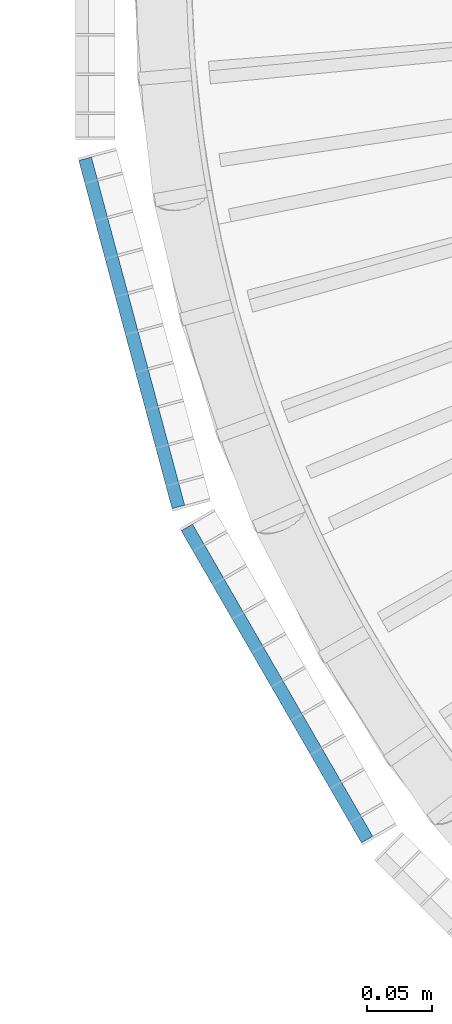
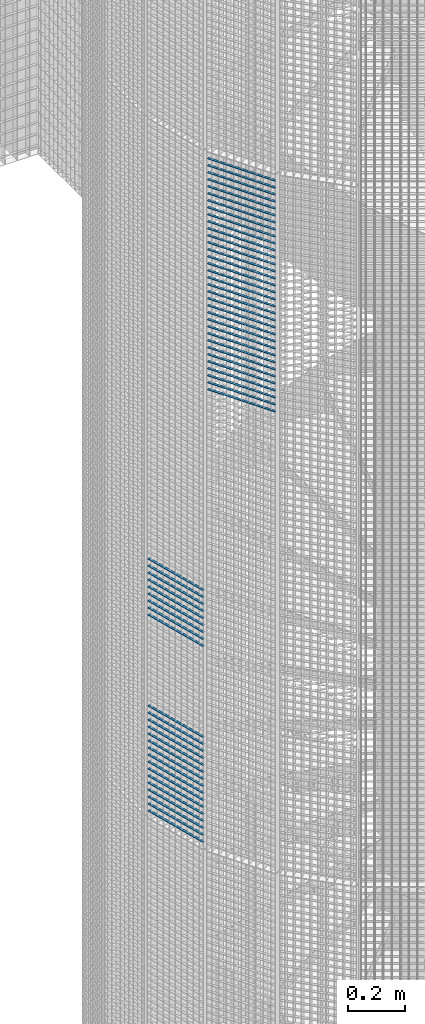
# One storey, part 358 of 1148: 59 beams, 2 elements without a shape of their own.
"""IFC2X3 building model written with IfcOpenShell, lengths in millimetres."""

from ifc_helpers import new_model, si_unit, frame, origin_with_axes, origin_2d_with_axis, place, context, subcontext, project, spatial, rectangle, extrude, material, type_object, element, aggregate, save


model = new_model("IFC2X3")

# Units and contexts
model_context = context("Model", 3, precision=1e-05, world=origin_with_axes())
body_context = subcontext(model_context, "Body", "Model", "MODEL_VIEW")
ifc_project = project(units=[si_unit("LENGTHUNIT", "METRE", prefix="MILLI"), si_unit("AREAUNIT", "SQUARE_METRE"), si_unit("VOLUMEUNIT", "CUBIC_METRE"), si_unit("MASSUNIT", "GRAM", prefix="KILO"), si_unit("TIMEUNIT", "SECOND"), si_unit("PLANEANGLEUNIT", "RADIAN"), si_unit("SOLIDANGLEUNIT", "STERADIAN"), si_unit("THERMODYNAMICTEMPERATUREUNIT", "DEGREE_CELSIUS"), si_unit("LUMINOUSINTENSITYUNIT", "LUMEN")], contexts=[model_context])

# Site, building, storey
site_placement = place(None, origin_with_axes())
site = spatial("IfcSite", under=ifc_project, at=site_placement, Name="Undefined", CompositionType="ELEMENT")
building_placement = place(site_placement, origin_with_axes())
building = spatial("IfcBuilding", under=site, at=building_placement, Name="Undefined", CompositionType="ELEMENT")
storey_placement = place(building_placement, origin_with_axes())
storey = spatial("IfcBuildingStorey", under=building, at=storey_placement, Name="Undefined", CompositionType="ELEMENT", Elevation=0.0)

# Assembly, beams
assembly_1_placement = place(storey_placement, origin_with_axes())
assembly_1 = element("IfcElementAssembly", 1, at=assembly_1_placement, inside=storey, Name="BORDURE", AssemblyPlace="NOTDEFINED", PredefinedType="NOTDEFINED")
ifc_material = material(Name="STEEL/S235JR")
beam_type = type_object("IfcBeamType", Name="PL2*10", PredefinedType="NOTDEFINED")
beam_1_placement = place(assembly_1_placement, frame((20560.1769047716, -421.483733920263, 3480.0), z_axis=(-0.965925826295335, -0.258819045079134, 0.0), x_axis=(-0.258819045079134, 0.965925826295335, 0.0)))
beam_1 = element("IfcBeam", 2, at=beam_1_placement, type_object=beam_type, material=ifc_material, Name="ENTRETOISE", context=body_context, shape_type="SweptSolid", body=[
    extrude(rectangle(XDim=2.0, YDim=10.0, at=origin_2d_with_axis()), frame((275.999999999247, 9.09494701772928e-13, 1.53210777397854e-14), z_axis=(-1.0, 0.0, 0.0), x_axis=(0.0, -1.0, 0.0)), (0.0, 0.0, 1.0), 276.0),
])
beam_2_placement = place(assembly_1_placement, frame((20560.1769047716, -421.483733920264, 3870.0), z_axis=(-0.965925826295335, -0.258819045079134, 0.0), x_axis=(-0.258819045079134, 0.965925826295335, 0.0)))
beam_2 = element("IfcBeam", 3, at=beam_2_placement, type_object=beam_type, material=ifc_material, Name="ENTRETOISE", context=body_context, shape_type="SweptSolid", body=[
    extrude(rectangle(XDim=2.0, YDim=10.0, at=origin_2d_with_axis()), frame((275.999999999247, 9.09494701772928e-13, 1.53210777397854e-14), z_axis=(-1.0, 0.0, 0.0), x_axis=(0.0, -1.0, 0.0)), (0.0, 0.0, 1.0), 276.0),
])
beam_3_placement = place(assembly_1_placement, frame((20560.1769047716, -421.483733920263, 3450.0), z_axis=(-0.965925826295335, -0.258819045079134, 0.0), x_axis=(-0.258819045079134, 0.965925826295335, 0.0)))
beam_3 = element("IfcBeam", 4, at=beam_3_placement, type_object=beam_type, material=ifc_material, Name="ENTRETOISE", context=body_context, shape_type="SweptSolid", body=[
    extrude(rectangle(XDim=2.0, YDim=10.0, at=origin_2d_with_axis()), frame((275.999999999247, 9.09494701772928e-13, 1.53210777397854e-14), z_axis=(-1.0, 0.0, 0.0), x_axis=(0.0, -1.0, 0.0)), (0.0, 0.0, 1.0), 276.0),
])
beam_4_placement = place(assembly_1_placement, frame((20560.1769047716, -421.483733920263, 3420.0), z_axis=(-0.965925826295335, -0.258819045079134, 0.0), x_axis=(-0.258819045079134, 0.965925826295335, 0.0)))
beam_4 = element("IfcBeam", 5, at=beam_4_placement, type_object=beam_type, material=ifc_material, Name="ENTRETOISE", context=body_context, shape_type="SweptSolid", body=[
    extrude(rectangle(XDim=2.0, YDim=10.0, at=origin_2d_with_axis()), frame((275.999999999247, 9.09494701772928e-13, 1.53210777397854e-14), z_axis=(-1.0, 0.0, 0.0), x_axis=(0.0, -1.0, 0.0)), (0.0, 0.0, 1.0), 276.0),
])
beam_5_placement = place(assembly_1_placement, frame((20560.1769047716, -421.483733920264, 3900.0), z_axis=(-0.965925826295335, -0.258819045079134, 0.0), x_axis=(-0.258819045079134, 0.965925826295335, 0.0)))
beam_5 = element("IfcBeam", 6, at=beam_5_placement, type_object=beam_type, material=ifc_material, Name="ENTRETOISE", context=body_context, shape_type="SweptSolid", body=[
    extrude(rectangle(XDim=2.0, YDim=10.0, at=origin_2d_with_axis()), frame((275.999999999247, 9.09494701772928e-13, 1.53210777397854e-14), z_axis=(-1.0, 0.0, 0.0), x_axis=(0.0, -1.0, 0.0)), (0.0, 0.0, 1.0), 276.0),
])
beam_6_placement = place(assembly_1_placement, frame((20560.1769047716, -421.483733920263, 3390.0), z_axis=(-0.965925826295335, -0.258819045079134, 0.0), x_axis=(-0.258819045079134, 0.965925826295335, 0.0)))
beam_6 = element("IfcBeam", 7, at=beam_6_placement, type_object=beam_type, material=ifc_material, Name="ENTRETOISE", context=body_context, shape_type="SweptSolid", body=[
    extrude(rectangle(XDim=2.0, YDim=10.0, at=origin_2d_with_axis()), frame((275.999999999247, 9.09494701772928e-13, 1.53210777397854e-14), z_axis=(-1.0, 0.0, 0.0), x_axis=(0.0, -1.0, 0.0)), (0.0, 0.0, 1.0), 276.0),
])
beam_7_placement = place(assembly_1_placement, frame((20560.1769047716, -421.483733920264, 3930.0), z_axis=(-0.965925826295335, -0.258819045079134, 0.0), x_axis=(-0.258819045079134, 0.965925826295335, 0.0)))
beam_7 = element("IfcBeam", 8, at=beam_7_placement, type_object=beam_type, material=ifc_material, Name="ENTRETOISE", context=body_context, shape_type="SweptSolid", body=[
    extrude(rectangle(XDim=2.0, YDim=10.0, at=origin_2d_with_axis()), frame((275.999999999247, 9.09494701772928e-13, 1.53210777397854e-14), z_axis=(-1.0, 0.0, 0.0), x_axis=(0.0, -1.0, 0.0)), (0.0, 0.0, 1.0), 276.0),
])
beam_8_placement = place(assembly_1_placement, frame((20560.1769047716, -421.483733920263, 3360.0), z_axis=(-0.965925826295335, -0.258819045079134, 0.0), x_axis=(-0.258819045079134, 0.965925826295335, 0.0)))
beam_8 = element("IfcBeam", 9, at=beam_8_placement, type_object=beam_type, material=ifc_material, Name="ENTRETOISE", context=body_context, shape_type="SweptSolid", body=[
    extrude(rectangle(XDim=2.0, YDim=10.0, at=origin_2d_with_axis()), frame((275.999999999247, 9.09494701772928e-13, 1.53210777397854e-14), z_axis=(-1.0, 0.0, 0.0), x_axis=(0.0, -1.0, 0.0)), (0.0, 0.0, 1.0), 276.0),
])
beam_9_placement = place(assembly_1_placement, frame((20560.1769047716, -421.483733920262, 3330.0), z_axis=(-0.965925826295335, -0.258819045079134, 0.0), x_axis=(-0.258819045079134, 0.965925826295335, 0.0)))
beam_9 = element("IfcBeam", 10, at=beam_9_placement, type_object=beam_type, material=ifc_material, Name="ENTRETOISE", context=body_context, shape_type="SweptSolid", body=[
    extrude(rectangle(XDim=2.0, YDim=10.0, at=origin_2d_with_axis()), frame((275.999999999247, 9.09494701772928e-13, 1.53210777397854e-14), z_axis=(-1.0, 0.0, 0.0), x_axis=(0.0, -1.0, 0.0)), (0.0, 0.0, 1.0), 276.0),
])
beam_10_placement = place(assembly_1_placement, frame((20560.1769047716, -421.483733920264, 3960.0), z_axis=(-0.965925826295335, -0.258819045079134, 0.0), x_axis=(-0.258819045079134, 0.965925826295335, 0.0)))
beam_10 = element("IfcBeam", 11, at=beam_10_placement, type_object=beam_type, material=ifc_material, Name="ENTRETOISE", context=body_context, shape_type="SweptSolid", body=[
    extrude(rectangle(XDim=2.0, YDim=10.0, at=origin_2d_with_axis()), frame((275.999999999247, 9.09494701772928e-13, 1.53210777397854e-14), z_axis=(-1.0, 0.0, 0.0), x_axis=(0.0, -1.0, 0.0)), (0.0, 0.0, 1.0), 276.0),
])
beam_11_placement = place(assembly_1_placement, frame((20560.1769047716, -421.483733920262, 3300.0), z_axis=(-0.965925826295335, -0.258819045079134, 0.0), x_axis=(-0.258819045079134, 0.965925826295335, 0.0)))
beam_11 = element("IfcBeam", 12, at=beam_11_placement, type_object=beam_type, material=ifc_material, Name="ENTRETOISE", context=body_context, shape_type="SweptSolid", body=[
    extrude(rectangle(XDim=2.0, YDim=10.0, at=origin_2d_with_axis()), frame((275.999999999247, 9.09494701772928e-13, 1.53210777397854e-14), z_axis=(-1.0, 0.0, 0.0), x_axis=(0.0, -1.0, 0.0)), (0.0, 0.0, 1.0), 276.0),
])
beam_12_placement = place(assembly_1_placement, frame((20560.1769047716, -421.483733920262, 3270.0), z_axis=(-0.965925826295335, -0.258819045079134, 0.0), x_axis=(-0.258819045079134, 0.965925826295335, 0.0)))
beam_12 = element("IfcBeam", 13, at=beam_12_placement, type_object=beam_type, material=ifc_material, Name="ENTRETOISE", context=body_context, shape_type="SweptSolid", body=[
    extrude(rectangle(XDim=2.0, YDim=10.0, at=origin_2d_with_axis()), frame((275.999999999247, 9.09494701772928e-13, 1.53210777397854e-14), z_axis=(-1.0, 0.0, 0.0), x_axis=(0.0, -1.0, 0.0)), (0.0, 0.0, 1.0), 276.0),
])
beam_13_placement = place(assembly_1_placement, frame((20560.1769047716, -421.483733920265, 3990.0), z_axis=(-0.965925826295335, -0.258819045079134, 0.0), x_axis=(-0.258819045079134, 0.965925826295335, 0.0)))
beam_13 = element("IfcBeam", 14, at=beam_13_placement, type_object=beam_type, material=ifc_material, Name="ENTRETOISE", context=body_context, shape_type="SweptSolid", body=[
    extrude(rectangle(XDim=2.0, YDim=10.0, at=origin_2d_with_axis()), frame((275.999999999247, 9.09494701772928e-13, 1.53210777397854e-14), z_axis=(-1.0, 0.0, 0.0), x_axis=(0.0, -1.0, 0.0)), (0.0, 0.0, 1.0), 276.0),
])
beam_14_placement = place(assembly_1_placement, frame((20560.1769047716, -421.483733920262, 3240.0), z_axis=(-0.965925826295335, -0.258819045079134, 0.0), x_axis=(-0.258819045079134, 0.965925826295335, 0.0)))
beam_14 = element("IfcBeam", 15, at=beam_14_placement, type_object=beam_type, material=ifc_material, Name="ENTRETOISE", context=body_context, shape_type="SweptSolid", body=[
    extrude(rectangle(XDim=2.0, YDim=10.0, at=origin_2d_with_axis()), frame((275.999999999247, 9.09494701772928e-13, 1.53210777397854e-14), z_axis=(-1.0, 0.0, 0.0), x_axis=(0.0, -1.0, 0.0)), (0.0, 0.0, 1.0), 276.0),
])
beam_15_placement = place(assembly_1_placement, frame((20560.1769047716, -421.483733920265, 4020.0), z_axis=(-0.965925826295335, -0.258819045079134, 0.0), x_axis=(-0.258819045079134, 0.965925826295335, 0.0)))
beam_15 = element("IfcBeam", 16, at=beam_15_placement, type_object=beam_type, material=ifc_material, Name="ENTRETOISE", context=body_context, shape_type="SweptSolid", body=[
    extrude(rectangle(XDim=2.0, YDim=10.0, at=origin_2d_with_axis()), frame((275.999999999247, 9.09494701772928e-13, 1.53210777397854e-14), z_axis=(-1.0, 0.0, 0.0), x_axis=(0.0, -1.0, 0.0)), (0.0, 0.0, 1.0), 276.0),
])
beam_16_placement = place(assembly_1_placement, frame((20560.1769047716, -421.483733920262, 3210.0), z_axis=(-0.965925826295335, -0.258819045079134, 0.0), x_axis=(-0.258819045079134, 0.965925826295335, 0.0)))
beam_16 = element("IfcBeam", 17, at=beam_16_placement, type_object=beam_type, material=ifc_material, Name="ENTRETOISE", context=body_context, shape_type="SweptSolid", body=[
    extrude(rectangle(XDim=2.0, YDim=10.0, at=origin_2d_with_axis()), frame((275.999999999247, 9.09494701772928e-13, 1.53210777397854e-14), z_axis=(-1.0, 0.0, 0.0), x_axis=(0.0, -1.0, 0.0)), (0.0, 0.0, 1.0), 276.0),
])
beam_17_placement = place(assembly_1_placement, frame((20560.1769047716, -421.483733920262, 3180.0), z_axis=(-0.965925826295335, -0.258819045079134, 0.0), x_axis=(-0.258819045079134, 0.965925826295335, 0.0)))
beam_17 = element("IfcBeam", 18, at=beam_17_placement, type_object=beam_type, material=ifc_material, Name="ENTRETOISE", context=body_context, shape_type="SweptSolid", body=[
    extrude(rectangle(XDim=2.0, YDim=10.0, at=origin_2d_with_axis()), frame((275.999999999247, 9.09494701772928e-13, 1.53210777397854e-14), z_axis=(-1.0, 0.0, 0.0), x_axis=(0.0, -1.0, 0.0)), (0.0, 0.0, 1.0), 276.0),
])
beam_18_placement = place(assembly_1_placement, frame((20560.1769047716, -421.483733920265, 4050.0), z_axis=(-0.965925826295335, -0.258819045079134, 0.0), x_axis=(-0.258819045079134, 0.965925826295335, 0.0)))
beam_18 = element("IfcBeam", 19, at=beam_18_placement, type_object=beam_type, material=ifc_material, Name="ENTRETOISE", context=body_context, shape_type="SweptSolid", body=[
    extrude(rectangle(XDim=2.0, YDim=10.0, at=origin_2d_with_axis()), frame((275.999999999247, 9.09494701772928e-13, 1.53210777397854e-14), z_axis=(-1.0, 0.0, 0.0), x_axis=(0.0, -1.0, 0.0)), (0.0, 0.0, 1.0), 276.0),
])
beam_19_placement = place(assembly_1_placement, frame((20560.1769047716, -421.483733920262, 3150.0), z_axis=(-0.965925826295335, -0.258819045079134, 0.0), x_axis=(-0.258819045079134, 0.965925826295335, 0.0)))
beam_19 = element("IfcBeam", 20, at=beam_19_placement, type_object=beam_type, material=ifc_material, Name="ENTRETOISE", context=body_context, shape_type="SweptSolid", body=[
    extrude(rectangle(XDim=2.0, YDim=10.0, at=origin_2d_with_axis()), frame((275.999999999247, 9.09494701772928e-13, 1.53210777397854e-14), z_axis=(-1.0, 0.0, 0.0), x_axis=(0.0, -1.0, 0.0)), (0.0, 0.0, 1.0), 276.0),
])
beam_20_placement = place(assembly_1_placement, frame((20560.1769047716, -421.483733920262, 3120.0), z_axis=(-0.965925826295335, -0.258819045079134, 0.0), x_axis=(-0.258819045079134, 0.965925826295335, 0.0)))
beam_20 = element("IfcBeam", 21, at=beam_20_placement, type_object=beam_type, material=ifc_material, Name="ENTRETOISE", context=body_context, shape_type="SweptSolid", body=[
    extrude(rectangle(XDim=2.0, YDim=10.0, at=origin_2d_with_axis()), frame((275.999999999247, 9.09494701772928e-13, 1.53210777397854e-14), z_axis=(-1.0, 0.0, 0.0), x_axis=(0.0, -1.0, 0.0)), (0.0, 0.0, 1.0), 276.0),
])
beam_21_placement = place(assembly_1_placement, frame((20560.1769047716, -421.483733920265, 4080.0), z_axis=(-0.965925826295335, -0.258819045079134, 0.0), x_axis=(-0.258819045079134, 0.965925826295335, 0.0)))
beam_21 = element("IfcBeam", 22, at=beam_21_placement, type_object=beam_type, material=ifc_material, Name="ENTRETOISE", context=body_context, shape_type="SweptSolid", body=[
    extrude(rectangle(XDim=2.0, YDim=10.0, at=origin_2d_with_axis()), frame((275.999999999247, 9.09494701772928e-13, 1.53210777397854e-14), z_axis=(-1.0, 0.0, 0.0), x_axis=(0.0, -1.0, 0.0)), (0.0, 0.0, 1.0), 276.0),
])
beam_22_placement = place(assembly_1_placement, frame((20560.1769047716, -421.483733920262, 3090.0), z_axis=(-0.965925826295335, -0.258819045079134, 0.0), x_axis=(-0.258819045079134, 0.965925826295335, 0.0)))
beam_22 = element("IfcBeam", 23, at=beam_22_placement, type_object=beam_type, material=ifc_material, Name="ENTRETOISE", context=body_context, shape_type="SweptSolid", body=[
    extrude(rectangle(XDim=2.0, YDim=10.0, at=origin_2d_with_axis()), frame((275.999999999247, 9.09494701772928e-13, 1.53210777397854e-14), z_axis=(-1.0, 0.0, 0.0), x_axis=(0.0, -1.0, 0.0)), (0.0, 0.0, 1.0), 276.0),
])
beam_23_placement = place(assembly_1_placement, frame((20560.1769047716, -421.483733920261, 3060.0), z_axis=(-0.965925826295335, -0.258819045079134, 0.0), x_axis=(-0.258819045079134, 0.965925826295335, 0.0)))
beam_23 = element("IfcBeam", 24, at=beam_23_placement, type_object=beam_type, material=ifc_material, Name="ENTRETOISE", context=body_context, shape_type="SweptSolid", body=[
    extrude(rectangle(XDim=2.0, YDim=10.0, at=origin_2d_with_axis()), frame((275.999999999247, 9.09494701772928e-13, 1.53210777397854e-14), z_axis=(-1.0, 0.0, 0.0), x_axis=(0.0, -1.0, 0.0)), (0.0, 0.0, 1.0), 276.0),
])
beam_24_placement = place(assembly_1_placement, frame((20560.1769047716, -421.483733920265, 4110.0), z_axis=(-0.965925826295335, -0.258819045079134, 0.0), x_axis=(-0.258819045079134, 0.965925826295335, 0.0)))
beam_24 = element("IfcBeam", 25, at=beam_24_placement, type_object=beam_type, material=ifc_material, Name="ENTRETOISE", context=body_context, shape_type="SweptSolid", body=[
    extrude(rectangle(XDim=2.0, YDim=10.0, at=origin_2d_with_axis()), frame((275.999999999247, 9.09494701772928e-13, 1.53210777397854e-14), z_axis=(-1.0, 0.0, 0.0), x_axis=(0.0, -1.0, 0.0)), (0.0, 0.0, 1.0), 276.0),
])
beam_25_placement = place(assembly_1_placement, frame((20560.1769047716, -421.48373392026, 3030.0), z_axis=(-0.965925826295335, -0.258819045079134, 0.0), x_axis=(-0.258819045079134, 0.965925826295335, 0.0)))
beam_25 = element("IfcBeam", 26, at=beam_25_placement, type_object=beam_type, material=ifc_material, Name="ENTRETOISE", context=body_context, shape_type="SweptSolid", body=[
    extrude(rectangle(XDim=2.0, YDim=10.0, at=origin_2d_with_axis()), frame((275.999999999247, 9.09494701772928e-13, 1.53210777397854e-14), z_axis=(-1.0, 0.0, 0.0), x_axis=(0.0, -1.0, 0.0)), (0.0, 0.0, 1.0), 276.0),
])
aggregate(assembly_1, [beam_1, beam_2, beam_3, beam_4, beam_5, beam_6, beam_7, beam_8, beam_9, beam_10, beam_11, beam_12, beam_13, beam_14, beam_15, beam_16, beam_17, beam_18, beam_19, beam_20, beam_21, beam_22, beam_23, beam_24, beam_25])

assembly_2_placement = place(storey_placement, origin_with_axes())
assembly_2 = element("IfcElementAssembly", 27, at=assembly_2_placement, inside=storey, Name="BORDURE", AssemblyPlace="NOTDEFINED", PredefinedType="NOTDEFINED")
beam_26_placement = place(assembly_2_placement, frame((20704.6960350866, -676.248044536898, 5970.0), z_axis=(-0.866025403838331, -0.499999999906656, 0.0), x_axis=(-0.49999999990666, 0.866025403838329, 0.0)))
beam_26 = element("IfcBeam", 28, at=beam_26_placement, type_object=beam_type, material=ifc_material, Name="ENTRETOISE", context=body_context, shape_type="SweptSolid", body=[
    extrude(rectangle(XDim=2.0, YDim=10.0, at=origin_2d_with_axis()), frame((275.999999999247, 9.09494701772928e-13, 1.53210777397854e-14), z_axis=(-1.0, 0.0, 0.0), x_axis=(0.0, -1.0, 0.0)), (0.0, 0.0, 1.0), 276.0),
])
beam_27_placement = place(assembly_2_placement, frame((20704.6960350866, -676.248044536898, 5940.0), z_axis=(-0.866025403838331, -0.499999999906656, 0.0), x_axis=(-0.49999999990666, 0.866025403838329, 0.0)))
beam_27 = element("IfcBeam", 29, at=beam_27_placement, type_object=beam_type, material=ifc_material, Name="ENTRETOISE", context=body_context, shape_type="SweptSolid", body=[
    extrude(rectangle(XDim=2.0, YDim=10.0, at=origin_2d_with_axis()), frame((275.999999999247, 9.09494701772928e-13, 1.53210777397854e-14), z_axis=(-1.0, 0.0, 0.0), x_axis=(0.0, -1.0, 0.0)), (0.0, 0.0, 1.0), 276.0),
])
beam_28_placement = place(assembly_2_placement, frame((20704.6960350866, -676.248044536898, 5910.0), z_axis=(-0.866025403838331, -0.499999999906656, 0.0), x_axis=(-0.49999999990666, 0.866025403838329, 0.0)))
beam_28 = element("IfcBeam", 30, at=beam_28_placement, type_object=beam_type, material=ifc_material, Name="ENTRETOISE", context=body_context, shape_type="SweptSolid", body=[
    extrude(rectangle(XDim=2.0, YDim=10.0, at=origin_2d_with_axis()), frame((275.999999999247, 9.09494701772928e-13, 1.53210777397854e-14), z_axis=(-1.0, 0.0, 0.0), x_axis=(0.0, -1.0, 0.0)), (0.0, 0.0, 1.0), 276.0),
])
beam_29_placement = place(assembly_2_placement, frame((20704.6960350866, -676.248044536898, 5880.0), z_axis=(-0.866025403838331, -0.499999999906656, 0.0), x_axis=(-0.49999999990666, 0.866025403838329, 0.0)))
beam_29 = element("IfcBeam", 31, at=beam_29_placement, type_object=beam_type, material=ifc_material, Name="ENTRETOISE", context=body_context, shape_type="SweptSolid", body=[
    extrude(rectangle(XDim=2.0, YDim=10.0, at=origin_2d_with_axis()), frame((275.999999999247, 9.09494701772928e-13, 1.53210777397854e-14), z_axis=(-1.0, 0.0, 0.0), x_axis=(0.0, -1.0, 0.0)), (0.0, 0.0, 1.0), 276.0),
])
beam_30_placement = place(assembly_2_placement, frame((20704.6960350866, -676.248044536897, 5850.0), z_axis=(-0.866025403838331, -0.499999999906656, 0.0), x_axis=(-0.49999999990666, 0.866025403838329, 0.0)))
beam_30 = element("IfcBeam", 32, at=beam_30_placement, type_object=beam_type, material=ifc_material, Name="ENTRETOISE", context=body_context, shape_type="SweptSolid", body=[
    extrude(rectangle(XDim=2.0, YDim=10.0, at=origin_2d_with_axis()), frame((275.999999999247, 9.09494701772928e-13, 1.53210777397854e-14), z_axis=(-1.0, 0.0, 0.0), x_axis=(0.0, -1.0, 0.0)), (0.0, 0.0, 1.0), 276.0),
])
beam_31_placement = place(assembly_2_placement, frame((20704.6960350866, -676.248044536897, 5820.0), z_axis=(-0.866025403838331, -0.499999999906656, 0.0), x_axis=(-0.49999999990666, 0.866025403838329, 0.0)))
beam_31 = element("IfcBeam", 33, at=beam_31_placement, type_object=beam_type, material=ifc_material, Name="ENTRETOISE", context=body_context, shape_type="SweptSolid", body=[
    extrude(rectangle(XDim=2.0, YDim=10.0, at=origin_2d_with_axis()), frame((275.999999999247, 9.09494701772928e-13, 1.53210777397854e-14), z_axis=(-1.0, 0.0, 0.0), x_axis=(0.0, -1.0, 0.0)), (0.0, 0.0, 1.0), 276.0),
])
beam_32_placement = place(assembly_2_placement, frame((20704.6960350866, -676.248044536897, 5790.0), z_axis=(-0.866025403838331, -0.499999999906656, 0.0), x_axis=(-0.49999999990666, 0.866025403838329, 0.0)))
beam_32 = element("IfcBeam", 34, at=beam_32_placement, type_object=beam_type, material=ifc_material, Name="ENTRETOISE", context=body_context, shape_type="SweptSolid", body=[
    extrude(rectangle(XDim=2.0, YDim=10.0, at=origin_2d_with_axis()), frame((275.999999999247, 9.09494701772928e-13, 1.53210777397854e-14), z_axis=(-1.0, 0.0, 0.0), x_axis=(0.0, -1.0, 0.0)), (0.0, 0.0, 1.0), 276.0),
])
beam_33_placement = place(assembly_2_placement, frame((20704.6960350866, -676.248044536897, 5760.0), z_axis=(-0.866025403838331, -0.499999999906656, 0.0), x_axis=(-0.49999999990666, 0.866025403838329, 0.0)))
beam_33 = element("IfcBeam", 35, at=beam_33_placement, type_object=beam_type, material=ifc_material, Name="ENTRETOISE", context=body_context, shape_type="SweptSolid", body=[
    extrude(rectangle(XDim=2.0, YDim=10.0, at=origin_2d_with_axis()), frame((275.999999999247, 9.09494701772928e-13, 1.53210777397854e-14), z_axis=(-1.0, 0.0, 0.0), x_axis=(0.0, -1.0, 0.0)), (0.0, 0.0, 1.0), 276.0),
])
beam_34_placement = place(assembly_2_placement, frame((20704.6960350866, -676.248044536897, 5730.0), z_axis=(-0.866025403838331, -0.499999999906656, 0.0), x_axis=(-0.49999999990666, 0.866025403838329, 0.0)))
beam_34 = element("IfcBeam", 36, at=beam_34_placement, type_object=beam_type, material=ifc_material, Name="ENTRETOISE", context=body_context, shape_type="SweptSolid", body=[
    extrude(rectangle(XDim=2.0, YDim=10.0, at=origin_2d_with_axis()), frame((275.999999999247, 9.09494701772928e-13, 1.53210777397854e-14), z_axis=(-1.0, 0.0, 0.0), x_axis=(0.0, -1.0, 0.0)), (0.0, 0.0, 1.0), 276.0),
])
beam_35_placement = place(assembly_2_placement, frame((20704.6960350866, -676.248044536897, 5700.0), z_axis=(-0.866025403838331, -0.499999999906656, 0.0), x_axis=(-0.49999999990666, 0.866025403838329, 0.0)))
beam_35 = element("IfcBeam", 37, at=beam_35_placement, type_object=beam_type, material=ifc_material, Name="ENTRETOISE", context=body_context, shape_type="SweptSolid", body=[
    extrude(rectangle(XDim=2.0, YDim=10.0, at=origin_2d_with_axis()), frame((275.999999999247, 9.09494701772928e-13, 1.53210777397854e-14), z_axis=(-1.0, 0.0, 0.0), x_axis=(0.0, -1.0, 0.0)), (0.0, 0.0, 1.0), 276.0),
])
beam_36_placement = place(assembly_2_placement, frame((20704.6960350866, -676.248044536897, 5670.0), z_axis=(-0.866025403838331, -0.499999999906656, 0.0), x_axis=(-0.49999999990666, 0.866025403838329, 0.0)))
beam_36 = element("IfcBeam", 38, at=beam_36_placement, type_object=beam_type, material=ifc_material, Name="ENTRETOISE", context=body_context, shape_type="SweptSolid", body=[
    extrude(rectangle(XDim=2.0, YDim=10.0, at=origin_2d_with_axis()), frame((275.999999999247, 9.09494701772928e-13, 1.53210777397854e-14), z_axis=(-1.0, 0.0, 0.0), x_axis=(0.0, -1.0, 0.0)), (0.0, 0.0, 1.0), 276.0),
])
beam_37_placement = place(assembly_2_placement, frame((20704.6960350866, -676.248044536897, 5640.0), z_axis=(-0.866025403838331, -0.499999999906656, 0.0), x_axis=(-0.49999999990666, 0.866025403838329, 0.0)))
beam_37 = element("IfcBeam", 39, at=beam_37_placement, type_object=beam_type, material=ifc_material, Name="ENTRETOISE", context=body_context, shape_type="SweptSolid", body=[
    extrude(rectangle(XDim=2.0, YDim=10.0, at=origin_2d_with_axis()), frame((275.999999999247, 9.09494701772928e-13, 1.53210777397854e-14), z_axis=(-1.0, 0.0, 0.0), x_axis=(0.0, -1.0, 0.0)), (0.0, 0.0, 1.0), 276.0),
])
beam_38_placement = place(assembly_2_placement, frame((20704.6960350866, -676.248044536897, 5610.0), z_axis=(-0.866025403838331, -0.499999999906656, 0.0), x_axis=(-0.49999999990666, 0.866025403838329, 0.0)))
beam_38 = element("IfcBeam", 40, at=beam_38_placement, type_object=beam_type, material=ifc_material, Name="ENTRETOISE", context=body_context, shape_type="SweptSolid", body=[
    extrude(rectangle(XDim=2.0, YDim=10.0, at=origin_2d_with_axis()), frame((275.999999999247, 9.09494701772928e-13, 1.53210777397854e-14), z_axis=(-1.0, 0.0, 0.0), x_axis=(0.0, -1.0, 0.0)), (0.0, 0.0, 1.0), 276.0),
])
beam_39_placement = place(assembly_2_placement, frame((20704.6960350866, -676.248044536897, 5580.0), z_axis=(-0.866025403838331, -0.499999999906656, 0.0), x_axis=(-0.49999999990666, 0.866025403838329, 0.0)))
beam_39 = element("IfcBeam", 41, at=beam_39_placement, type_object=beam_type, material=ifc_material, Name="ENTRETOISE", context=body_context, shape_type="SweptSolid", body=[
    extrude(rectangle(XDim=2.0, YDim=10.0, at=origin_2d_with_axis()), frame((275.999999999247, 9.09494701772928e-13, 1.53210777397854e-14), z_axis=(-1.0, 0.0, 0.0), x_axis=(0.0, -1.0, 0.0)), (0.0, 0.0, 1.0), 276.0),
])
beam_40_placement = place(assembly_2_placement, frame((20704.6960350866, -676.248044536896, 5550.0), z_axis=(-0.866025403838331, -0.499999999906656, 0.0), x_axis=(-0.49999999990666, 0.866025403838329, 0.0)))
beam_40 = element("IfcBeam", 42, at=beam_40_placement, type_object=beam_type, material=ifc_material, Name="ENTRETOISE", context=body_context, shape_type="SweptSolid", body=[
    extrude(rectangle(XDim=2.0, YDim=10.0, at=origin_2d_with_axis()), frame((275.999999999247, 9.09494701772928e-13, 1.53210777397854e-14), z_axis=(-1.0, 0.0, 0.0), x_axis=(0.0, -1.0, 0.0)), (0.0, 0.0, 1.0), 276.0),
])
beam_41_placement = place(assembly_2_placement, frame((20704.6960350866, -676.248044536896, 5520.0), z_axis=(-0.866025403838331, -0.499999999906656, 0.0), x_axis=(-0.49999999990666, 0.866025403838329, 0.0)))
beam_41 = element("IfcBeam", 43, at=beam_41_placement, type_object=beam_type, material=ifc_material, Name="ENTRETOISE", context=body_context, shape_type="SweptSolid", body=[
    extrude(rectangle(XDim=2.0, YDim=10.0, at=origin_2d_with_axis()), frame((275.999999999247, 9.09494701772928e-13, 1.53210777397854e-14), z_axis=(-1.0, 0.0, 0.0), x_axis=(0.0, -1.0, 0.0)), (0.0, 0.0, 1.0), 276.0),
])
beam_42_placement = place(assembly_2_placement, frame((20704.6960350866, -676.248044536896, 5490.0), z_axis=(-0.866025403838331, -0.499999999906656, 0.0), x_axis=(-0.49999999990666, 0.866025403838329, 0.0)))
beam_42 = element("IfcBeam", 44, at=beam_42_placement, type_object=beam_type, material=ifc_material, Name="ENTRETOISE", context=body_context, shape_type="SweptSolid", body=[
    extrude(rectangle(XDim=2.0, YDim=10.0, at=origin_2d_with_axis()), frame((275.999999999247, 9.09494701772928e-13, 1.53210777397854e-14), z_axis=(-1.0, 0.0, 0.0), x_axis=(0.0, -1.0, 0.0)), (0.0, 0.0, 1.0), 276.0),
])
beam_43_placement = place(assembly_2_placement, frame((20704.6960350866, -676.248044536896, 5460.0), z_axis=(-0.866025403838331, -0.499999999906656, 0.0), x_axis=(-0.49999999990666, 0.866025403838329, 0.0)))
beam_43 = element("IfcBeam", 45, at=beam_43_placement, type_object=beam_type, material=ifc_material, Name="ENTRETOISE", context=body_context, shape_type="SweptSolid", body=[
    extrude(rectangle(XDim=2.0, YDim=10.0, at=origin_2d_with_axis()), frame((275.999999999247, 9.09494701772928e-13, 1.53210777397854e-14), z_axis=(-1.0, 0.0, 0.0), x_axis=(0.0, -1.0, 0.0)), (0.0, 0.0, 1.0), 276.0),
])
beam_44_placement = place(assembly_2_placement, frame((20704.6960350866, -676.248044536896, 5430.0), z_axis=(-0.866025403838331, -0.499999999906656, 0.0), x_axis=(-0.49999999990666, 0.866025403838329, 0.0)))
beam_44 = element("IfcBeam", 46, at=beam_44_placement, type_object=beam_type, material=ifc_material, Name="ENTRETOISE", context=body_context, shape_type="SweptSolid", body=[
    extrude(rectangle(XDim=2.0, YDim=10.0, at=origin_2d_with_axis()), frame((275.999999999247, 9.09494701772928e-13, 1.53210777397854e-14), z_axis=(-1.0, 0.0, 0.0), x_axis=(0.0, -1.0, 0.0)), (0.0, 0.0, 1.0), 276.0),
])
beam_45_placement = place(assembly_2_placement, frame((20704.6960350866, -676.248044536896, 5400.0), z_axis=(-0.866025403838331, -0.499999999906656, 0.0), x_axis=(-0.49999999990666, 0.866025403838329, 0.0)))
beam_45 = element("IfcBeam", 47, at=beam_45_placement, type_object=beam_type, material=ifc_material, Name="ENTRETOISE", context=body_context, shape_type="SweptSolid", body=[
    extrude(rectangle(XDim=2.0, YDim=10.0, at=origin_2d_with_axis()), frame((275.999999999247, 9.09494701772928e-13, 1.53210777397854e-14), z_axis=(-1.0, 0.0, 0.0), x_axis=(0.0, -1.0, 0.0)), (0.0, 0.0, 1.0), 276.0),
])
beam_46_placement = place(assembly_2_placement, frame((20704.6960350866, -676.248044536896, 5370.0), z_axis=(-0.866025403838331, -0.499999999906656, 0.0), x_axis=(-0.49999999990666, 0.866025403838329, 0.0)))
beam_46 = element("IfcBeam", 48, at=beam_46_placement, type_object=beam_type, material=ifc_material, Name="ENTRETOISE", context=body_context, shape_type="SweptSolid", body=[
    extrude(rectangle(XDim=2.0, YDim=10.0, at=origin_2d_with_axis()), frame((275.999999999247, 9.09494701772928e-13, 1.53210777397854e-14), z_axis=(-1.0, 0.0, 0.0), x_axis=(0.0, -1.0, 0.0)), (0.0, 0.0, 1.0), 276.0),
])
beam_47_placement = place(assembly_2_placement, frame((20704.6960350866, -676.248044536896, 5340.0), z_axis=(-0.866025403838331, -0.499999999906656, 0.0), x_axis=(-0.49999999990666, 0.866025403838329, 0.0)))
beam_47 = element("IfcBeam", 49, at=beam_47_placement, type_object=beam_type, material=ifc_material, Name="ENTRETOISE", context=body_context, shape_type="SweptSolid", body=[
    extrude(rectangle(XDim=2.0, YDim=10.0, at=origin_2d_with_axis()), frame((275.999999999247, 9.09494701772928e-13, 1.53210777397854e-14), z_axis=(-1.0, 0.0, 0.0), x_axis=(0.0, -1.0, 0.0)), (0.0, 0.0, 1.0), 276.0),
])
beam_48_placement = place(assembly_2_placement, frame((20704.6960350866, -676.248044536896, 5310.0), z_axis=(-0.866025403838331, -0.499999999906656, 0.0), x_axis=(-0.49999999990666, 0.866025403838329, 0.0)))
beam_48 = element("IfcBeam", 50, at=beam_48_placement, type_object=beam_type, material=ifc_material, Name="ENTRETOISE", context=body_context, shape_type="SweptSolid", body=[
    extrude(rectangle(XDim=2.0, YDim=10.0, at=origin_2d_with_axis()), frame((275.999999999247, 9.09494701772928e-13, 1.53210777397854e-14), z_axis=(-1.0, 0.0, 0.0), x_axis=(0.0, -1.0, 0.0)), (0.0, 0.0, 1.0), 276.0),
])
beam_49_placement = place(assembly_2_placement, frame((20704.6960350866, -676.248044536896, 5280.0), z_axis=(-0.866025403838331, -0.499999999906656, 0.0), x_axis=(-0.49999999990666, 0.866025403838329, 0.0)))
beam_49 = element("IfcBeam", 51, at=beam_49_placement, type_object=beam_type, material=ifc_material, Name="ENTRETOISE", context=body_context, shape_type="SweptSolid", body=[
    extrude(rectangle(XDim=2.0, YDim=10.0, at=origin_2d_with_axis()), frame((275.999999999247, 9.09494701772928e-13, 1.53210777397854e-14), z_axis=(-1.0, 0.0, 0.0), x_axis=(0.0, -1.0, 0.0)), (0.0, 0.0, 1.0), 276.0),
])
beam_50_placement = place(assembly_2_placement, frame((20704.6960350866, -676.248044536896, 5250.0), z_axis=(-0.866025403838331, -0.499999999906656, 0.0), x_axis=(-0.49999999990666, 0.866025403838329, 0.0)))
beam_50 = element("IfcBeam", 52, at=beam_50_placement, type_object=beam_type, material=ifc_material, Name="ENTRETOISE", context=body_context, shape_type="SweptSolid", body=[
    extrude(rectangle(XDim=2.0, YDim=10.0, at=origin_2d_with_axis()), frame((275.999999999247, 9.09494701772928e-13, 1.53210777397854e-14), z_axis=(-1.0, 0.0, 0.0), x_axis=(0.0, -1.0, 0.0)), (0.0, 0.0, 1.0), 276.0),
])
beam_51_placement = place(assembly_2_placement, frame((20704.6960350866, -676.248044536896, 5220.0), z_axis=(-0.866025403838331, -0.499999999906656, 0.0), x_axis=(-0.49999999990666, 0.866025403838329, 0.0)))
beam_51 = element("IfcBeam", 53, at=beam_51_placement, type_object=beam_type, material=ifc_material, Name="ENTRETOISE", context=body_context, shape_type="SweptSolid", body=[
    extrude(rectangle(XDim=2.0, YDim=10.0, at=origin_2d_with_axis()), frame((275.999999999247, 9.09494701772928e-13, 1.53210777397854e-14), z_axis=(-1.0, 0.0, 0.0), x_axis=(0.0, -1.0, 0.0)), (0.0, 0.0, 1.0), 276.0),
])
beam_52_placement = place(assembly_2_placement, frame((20704.6960350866, -676.248044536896, 5190.0), z_axis=(-0.866025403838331, -0.499999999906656, 0.0), x_axis=(-0.49999999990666, 0.866025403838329, 0.0)))
beam_52 = element("IfcBeam", 54, at=beam_52_placement, type_object=beam_type, material=ifc_material, Name="ENTRETOISE", context=body_context, shape_type="SweptSolid", body=[
    extrude(rectangle(XDim=2.0, YDim=10.0, at=origin_2d_with_axis()), frame((275.999999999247, 9.09494701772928e-13, 1.53210777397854e-14), z_axis=(-1.0, 0.0, 0.0), x_axis=(0.0, -1.0, 0.0)), (0.0, 0.0, 1.0), 276.0),
])
beam_53_placement = place(assembly_2_placement, frame((20704.6960350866, -676.248044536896, 5160.0), z_axis=(-0.866025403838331, -0.499999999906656, 0.0), x_axis=(-0.49999999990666, 0.866025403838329, 0.0)))
beam_53 = element("IfcBeam", 55, at=beam_53_placement, type_object=beam_type, material=ifc_material, Name="ENTRETOISE", context=body_context, shape_type="SweptSolid", body=[
    extrude(rectangle(XDim=2.0, YDim=10.0, at=origin_2d_with_axis()), frame((275.999999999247, 9.09494701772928e-13, 1.53210777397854e-14), z_axis=(-1.0, 0.0, 0.0), x_axis=(0.0, -1.0, 0.0)), (0.0, 0.0, 1.0), 276.0),
])
beam_54_placement = place(assembly_2_placement, frame((20704.6960350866, -676.248044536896, 5130.0), z_axis=(-0.866025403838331, -0.499999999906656, 0.0), x_axis=(-0.49999999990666, 0.866025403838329, 0.0)))
beam_54 = element("IfcBeam", 56, at=beam_54_placement, type_object=beam_type, material=ifc_material, Name="ENTRETOISE", context=body_context, shape_type="SweptSolid", body=[
    extrude(rectangle(XDim=2.0, YDim=10.0, at=origin_2d_with_axis()), frame((275.999999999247, 9.09494701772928e-13, 1.53210777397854e-14), z_axis=(-1.0, 0.0, 0.0), x_axis=(0.0, -1.0, 0.0)), (0.0, 0.0, 1.0), 276.0),
])
beam_55_placement = place(assembly_2_placement, frame((20704.6960350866, -676.248044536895, 5100.0), z_axis=(-0.866025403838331, -0.499999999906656, 0.0), x_axis=(-0.49999999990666, 0.866025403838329, 0.0)))
beam_55 = element("IfcBeam", 57, at=beam_55_placement, type_object=beam_type, material=ifc_material, Name="ENTRETOISE", context=body_context, shape_type="SweptSolid", body=[
    extrude(rectangle(XDim=2.0, YDim=10.0, at=origin_2d_with_axis()), frame((275.999999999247, 9.09494701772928e-13, 1.53210777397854e-14), z_axis=(-1.0, 0.0, 0.0), x_axis=(0.0, -1.0, 0.0)), (0.0, 0.0, 1.0), 276.0),
])
beam_56_placement = place(assembly_2_placement, frame((20704.6960350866, -676.248044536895, 5070.0), z_axis=(-0.866025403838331, -0.499999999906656, 0.0), x_axis=(-0.49999999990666, 0.866025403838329, 0.0)))
beam_56 = element("IfcBeam", 58, at=beam_56_placement, type_object=beam_type, material=ifc_material, Name="ENTRETOISE", context=body_context, shape_type="SweptSolid", body=[
    extrude(rectangle(XDim=2.0, YDim=10.0, at=origin_2d_with_axis()), frame((275.999999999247, 9.09494701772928e-13, 1.53210777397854e-14), z_axis=(-1.0, 0.0, 0.0), x_axis=(0.0, -1.0, 0.0)), (0.0, 0.0, 1.0), 276.0),
])
beam_57_placement = place(assembly_2_placement, frame((20704.6960350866, -676.248044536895, 5040.0), z_axis=(-0.866025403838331, -0.499999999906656, 0.0), x_axis=(-0.49999999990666, 0.866025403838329, 0.0)))
beam_57 = element("IfcBeam", 59, at=beam_57_placement, type_object=beam_type, material=ifc_material, Name="ENTRETOISE", context=body_context, shape_type="SweptSolid", body=[
    extrude(rectangle(XDim=2.0, YDim=10.0, at=origin_2d_with_axis()), frame((275.999999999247, 9.09494701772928e-13, 1.53210777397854e-14), z_axis=(-1.0, 0.0, 0.0), x_axis=(0.0, -1.0, 0.0)), (0.0, 0.0, 1.0), 276.0),
])
beam_58_placement = place(assembly_2_placement, frame((20704.6960350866, -676.248044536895, 5010.0), z_axis=(-0.866025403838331, -0.499999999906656, 0.0), x_axis=(-0.49999999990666, 0.866025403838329, 0.0)))
beam_58 = element("IfcBeam", 60, at=beam_58_placement, type_object=beam_type, material=ifc_material, Name="ENTRETOISE", context=body_context, shape_type="SweptSolid", body=[
    extrude(rectangle(XDim=2.0, YDim=10.0, at=origin_2d_with_axis()), frame((275.999999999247, 9.09494701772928e-13, 1.53210777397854e-14), z_axis=(-1.0, 0.0, 0.0), x_axis=(0.0, -1.0, 0.0)), (0.0, 0.0, 1.0), 276.0),
])
beam_59_placement = place(assembly_2_placement, frame((20704.6960350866, -676.248044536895, 4980.0), z_axis=(-0.866025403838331, -0.499999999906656, 0.0), x_axis=(-0.49999999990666, 0.866025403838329, 0.0)))
beam_59 = element("IfcBeam", 61, at=beam_59_placement, type_object=beam_type, material=ifc_material, Name="ENTRETOISE", context=body_context, shape_type="SweptSolid", body=[
    extrude(rectangle(XDim=2.0, YDim=10.0, at=origin_2d_with_axis()), frame((275.999999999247, 9.09494701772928e-13, 1.53210777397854e-14), z_axis=(-1.0, 0.0, 0.0), x_axis=(0.0, -1.0, 0.0)), (0.0, 0.0, 1.0), 276.0),
])
aggregate(assembly_2, [beam_26, beam_27, beam_28, beam_29, beam_30, beam_31, beam_32, beam_33, beam_34, beam_35, beam_36, beam_37, beam_38, beam_39, beam_40, beam_41, beam_42, beam_43, beam_44, beam_45, beam_46, beam_47, beam_48, beam_49, beam_50, beam_51, beam_52, beam_53, beam_54, beam_55, beam_56, beam_57, beam_58, beam_59])

save(model, "model.ifc")
